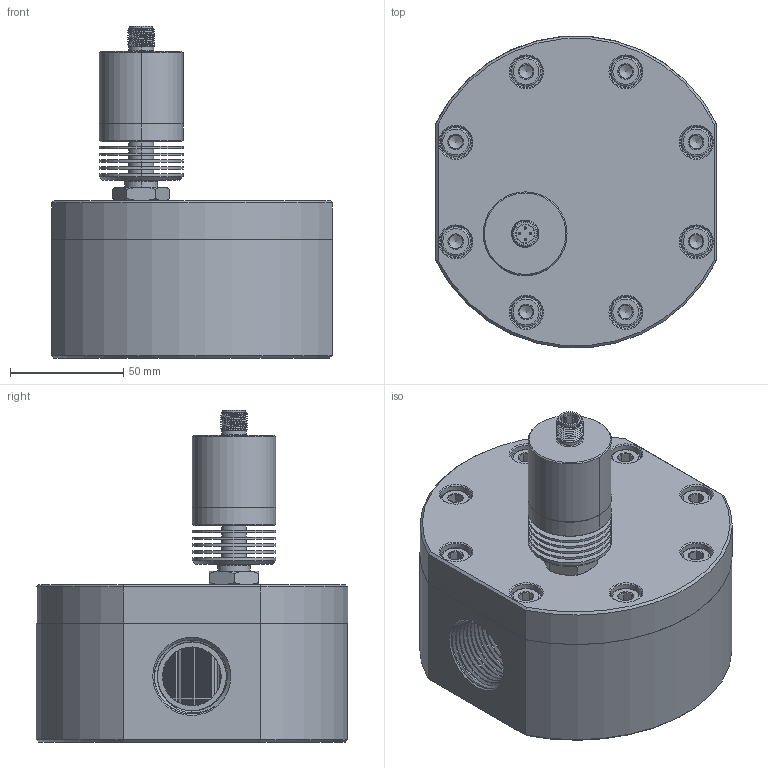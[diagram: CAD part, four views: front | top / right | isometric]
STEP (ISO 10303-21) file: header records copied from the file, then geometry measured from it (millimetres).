
FILE_DESCRIPTION( (''), '2;1');
FILE_NAME( 'QZKD_M25_G1_M12_high-temp.step', '2024-06-05T08:16:16+08:00', (''), (''), '', '', '');
FILE_SCHEMA (('AUTOMOTIVE_DESIGN { 1 0 10303 214 3 1 1 1 }'));
Products named in the file (2): QZKD part 01; QZKD M25_G1_M12_high-temp
Assembly tree (1 placements, depth 2):
  QZKD M25_G1_M12_high-temp
    QZKD part 01
Bounding box: 124.08 x 137.64 x 146.7 mm (x, y, z)
Volume: 918071 mm3; surface area: 177431.4 mm2
Topology: 16 solids, 16 shells, 2282 faces, 6405 edges, 4189 vertices
Faces by surface type: plane 1826, cylinder 229, cone 152, bspline 37, torus 20, sphere 16, extrusion 2
Full cylindrical faces by diameter (mm): 6.8 x10, 7.76 x8, 8 x10, 8.5 x8, 10 x1, 11 x2, 13 x8, 14 x10, 16.5 x2, 26 x2
Entity records: 80157 total; most frequent: CARTESIAN_POINT 22303, ORIENTED_EDGE 12366, DIRECTION 11033, EDGE_CURVE 6183, VECTOR 5275, LINE 5273, VERTEX_POINT 4146, AXIS2_PLACEMENT_3D 2879
